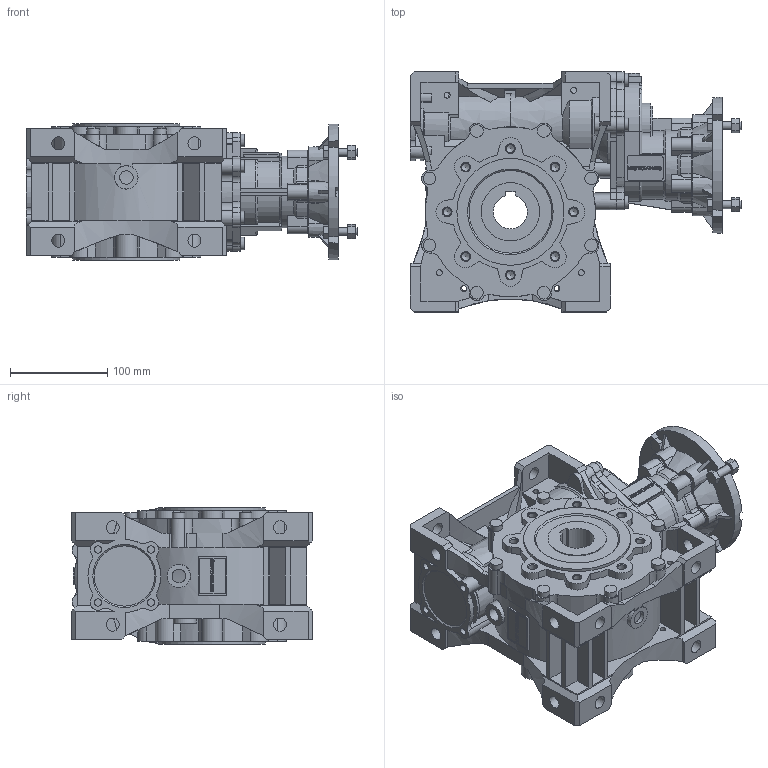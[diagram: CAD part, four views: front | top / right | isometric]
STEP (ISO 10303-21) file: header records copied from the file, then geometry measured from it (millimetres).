
FILE_DESCRIPTION(/* description */ ('STEP AP214'),/* implementation_level */ '2;1');
FILE_NAME(/* name */ 'NMRVP_HW 040-090 63 (4.2x15) 140x24 35 NO NO - - NO - - - NO NO - --(--------)',/* time_stamp */ '2024-10-09T09:52:52+02:00',/* author */ ('License CC BY-ND 4.0'),/* organization */ ('CADENAS'),/* preprocessor_version */ 'ST-DEVELOPER v19.3',/* originating_system */ 'PARTsolutions',/* authorisation */ ' ');
FILE_SCHEMA (('AUTOMOTIVE_DESIGN {1 0 10303 214 3 1 1}'));
Products named in the file (8): NMRVP/HW 040-090 63 (4.2x15) 140x24 35 NO NO - - NO - - - NO NO - --(
--------); W.090.01.M; 090-35 (140); W.090.14.19.M-phw; 90-50; HW40; 6390 B14; PC.040.27.24.M
Assembly tree (7 placements, depth 2):
  NMRVP/HW 040-090 63 (4.2x15) 140x24 35 NO NO - - NO - - - NO NO - --(
--------)
    W.090.01.M
    090-35 (140)
    W.090.14.19.M-phw
    90-50
    HW40
    6390 B14
    PC.040.27.24.M
Bounding box: 341 x 247 x 140 mm (x, y, z)
Volume: 4941049 mm3; surface area: 587364.1 mm2
Topology: 7 solids, 9 shells, 1879 faces, 5137 edges, 3402 vertices
Faces by surface type: plane 1002, cylinder 729, cone 142, torus 6
Full cylindrical faces by diameter (mm): 6 x12, 7.45 x12, 8 x8, 8.376 x16, 13 x20, 13.4 x14, 14 x4, 18 x1, 24 x2, 31 x1, 32 x1, 39 x1, 40 x1, 45 x1, 50 x3, 58 x1, 60 x1, 68 x2, 75 x2, 90 x2, 110 x2
Entity records: 72415 total; most frequent: CARTESIAN_POINT 11493, DIRECTION 10072, ORIENTED_EDGE 9858, EDGE_CURVE 4929, AXIS2_PLACEMENT_3D 3635, VERTEX_POINT 3362, LINE 2802, VECTOR 2802
